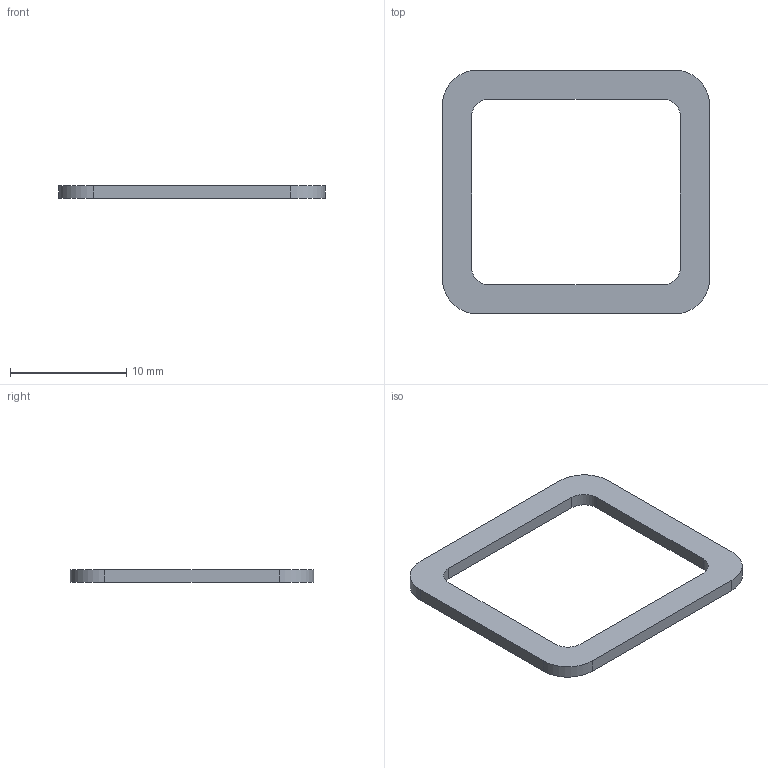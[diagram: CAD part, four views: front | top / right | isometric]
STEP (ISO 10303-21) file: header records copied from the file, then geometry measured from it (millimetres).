
FILE_DESCRIPTION(('Open CASCADE Model'),'2;1');
FILE_NAME('Open CASCADE Shape Model','2026-09-10T00:40:48',('Author'),( 'Open CASCADE'),'Open CASCADE STEP processor 7.8','Open CASCADE 7.8' ,'Unknown');
FILE_SCHEMA(('AUTOMOTIVE_DESIGN { 1 0 10303 214 1 1 1 1 }'));
Length unit declared in the file: millimetre
Products named in the file (1): Open CASCADE STEP translator 7.8 9
Bounding box: 23 x 21 x 1.1 mm (x, y, z)
Volume: 208.1 mm3; surface area: 541.5 mm2
Topology: 1 solids, 1 shells, 18 faces, 48 edges, 32 vertices
Faces by surface type: plane 10, cylinder 8
Entity records: 1186 total; most frequent: CARTESIAN_POINT 215, DIRECTION 178, ORIENTED_EDGE 96, PCURVE 96, DEFINITIONAL_REPRESENTATION 96, LINE 92, VECTOR 92, EDGE_CURVE 48
